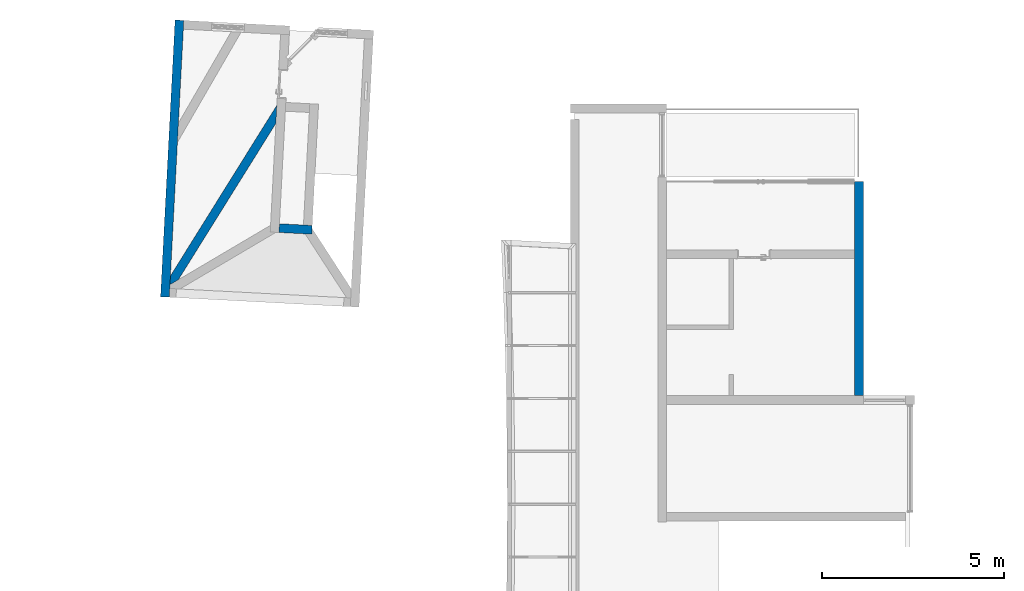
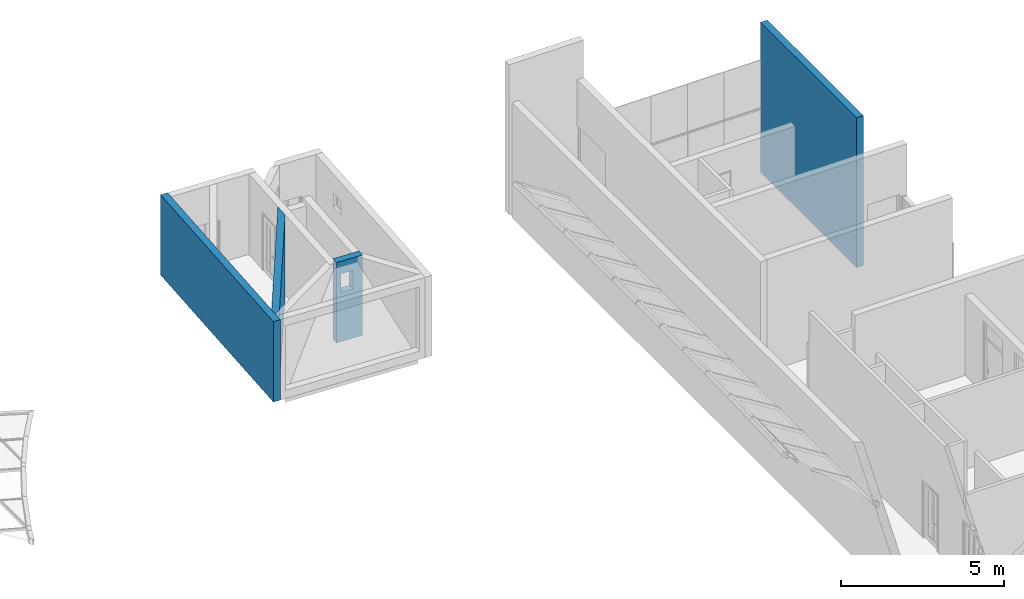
# One storey, part 26 of 33: 4 walls, 1 opening.
"""IFC2X3 building model written with IfcOpenShell, lengths in millimetres."""

from ifc_helpers import new_model, entity, si_unit, converted_unit, derived_unit, direction, frame, frame_2d, origin, place, context, subcontext, project, spatial, polyline, rectangle, outline, extrude, material, layer, layer_set, layer_usage, type_object, element, save


model = new_model("IFC2X3")

# Units and contexts
model_context = context("Model", 3, precision=0.01, world=origin(), true_north=direction((6.12303176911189e-17, 1.0)))
body_context = subcontext(model_context, "Body", "Model", "MODEL_VIEW")
ifc_project = project(units=[si_unit("LENGTHUNIT", "METRE", prefix="MILLI"), si_unit("AREAUNIT", "SQUARE_METRE"), si_unit("VOLUMEUNIT", "CUBIC_METRE"), converted_unit("PLANEANGLEUNIT", "DEGREE", entity("IfcRatioMeasure", 0.0174532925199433), si_unit("PLANEANGLEUNIT", "RADIAN"), dimensions=[0, 0, 0, 0, 0, 0, 0]), si_unit("MASSUNIT", "GRAM", prefix="KILO"), derived_unit("MASSDENSITYUNIT", [(si_unit("MASSUNIT", "GRAM", prefix="KILO"), 1), (si_unit("LENGTHUNIT", "METRE"), -3)]), si_unit("TIMEUNIT", "SECOND"), si_unit("FREQUENCYUNIT", "HERTZ"), si_unit("THERMODYNAMICTEMPERATUREUNIT", "DEGREE_CELSIUS"), derived_unit("THERMALTRANSMITTANCEUNIT", [(si_unit("MASSUNIT", "GRAM", prefix="KILO"), 1), (si_unit("THERMODYNAMICTEMPERATUREUNIT", "KELVIN"), -1), (si_unit("TIMEUNIT", "SECOND"), -3)]), derived_unit("VOLUMETRICFLOWRATEUNIT", [(si_unit("LENGTHUNIT", "METRE"), 3), (si_unit("TIMEUNIT", "SECOND"), -1)]), si_unit("ELECTRICCURRENTUNIT", "AMPERE"), si_unit("ELECTRICVOLTAGEUNIT", "VOLT"), si_unit("POWERUNIT", "WATT"), si_unit("FORCEUNIT", "NEWTON", prefix="KILO"), si_unit("ILLUMINANCEUNIT", "LUX"), si_unit("LUMINOUSFLUXUNIT", "LUMEN"), si_unit("LUMINOUSINTENSITYUNIT", "CANDELA"), derived_unit("USERDEFINED", [(si_unit("MASSUNIT", "GRAM", prefix="KILO"), -1), (si_unit("LENGTHUNIT", "METRE"), -2), (si_unit("TIMEUNIT", "SECOND"), 3), (si_unit("LUMINOUSFLUXUNIT", "LUMEN"), 1)]), derived_unit("LINEARVELOCITYUNIT", [(si_unit("LENGTHUNIT", "METRE"), 1), (si_unit("TIMEUNIT", "SECOND"), -1)]), si_unit("PRESSUREUNIT", "PASCAL"), derived_unit("USERDEFINED", [(si_unit("LENGTHUNIT", "METRE"), -2), (si_unit("MASSUNIT", "GRAM", prefix="KILO"), 1), (si_unit("TIMEUNIT", "SECOND"), -2)])], contexts=[model_context])

# Site, building, storey
site_placement = place(None, origin())
site = spatial("IfcSite", under=ifc_project, at=site_placement, Name="表面", CompositionType="ELEMENT")
building_placement = place(site_placement, origin())
building = spatial("IfcBuilding", under=site, at=building_placement, CompositionType="ELEMENT")
storey_placement = place(building_placement, frame((0.0, 0.0, 6000.0)))
storey = spatial("IfcBuildingStorey", under=building, at=storey_placement, Name="3F", CompositionType="ELEMENT", Elevation=6000.00000000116)

# Wall
ifc_material_1 = material(Name="白色涂料")
ifc_layer_1 = layer(ifc_material_1, 10.0)
ifc_material_2 = material(Name="默认墙")
ifc_layer_2 = layer(ifc_material_2, 220.0)
ifc_layer_3 = layer(ifc_material_1, 10.0)
ifc_layer_set = layer_set([ifc_layer_1, ifc_layer_2, ifc_layer_3], Name="基本墙:粉刷墙240")
ifc_layer_usage_1 = layer_usage(ifc_layer_set, "AXIS2", "NEGATIVE", 120.0)
wall_type = type_object("IfcWallType", Name="基本墙:粉刷墙240", PredefinedType="STANDARD", material=ifc_layer_set)
wall_1_placement = place(storey_placement, frame((-25665.3047645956, 511.665264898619, 0.0), z_axis=(0.0, 0.0, 1.0), x_axis=(0.0523359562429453, 0.998629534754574, 0.0)))
element("IfcWallStandardCase", 1, at=wall_1_placement, inside=storey, type_object=wall_type, material=ifc_layer_usage_1, Name="基本墙:粉刷墙240", ObjectType="基本墙:粉刷墙240", context=body_context, shape_type="SweptSolid", body=[
    extrude(rectangle(XDim=7600.0, YDim=239.999999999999, at=frame_2d((3800.0, 1.17950094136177e-12), x_axis=(-1.0, 0.0))), origin(), (0.0, 0.0, 1.0), 3000.0),
])

# Wall, opening
ifc_layer_usage_2 = layer_usage(ifc_layer_set, "AXIS2", "NEGATIVE", 120.0)
wall_2_placement = place(storey_placement, frame((-22532.1685639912, 2400.27786372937, 0.0), z_axis=(0.0, 0.0, 1.0), x_axis=(0.998629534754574, -0.0523359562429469, 0.0)))
wall_2 = element("IfcWallStandardCase", 2, at=wall_2_placement, inside=storey, type_object=wall_type, material=ifc_layer_usage_2, Name="基本墙:粉刷墙240", ObjectType="基本墙:粉刷墙240", context=body_context, shape_type="SweptSolid", body=[
    extrude(rectangle(XDim=899.999999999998, YDim=240.0, at=frame_2d((449.999999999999, -1.49213974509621e-13), x_axis=(-1.0, 0.0))), origin(), (0.0, 0.0, 1.0), 3000.0),
])
opening_placement = place(wall_2_placement, origin())
element("IfcOpeningElement", 3, at=opening_placement, cuts=wall_2, Name="基本墙:粉刷墙240", ObjectType="Opening", context=body_context, shape_type="SweptSolid", body=[
    extrude(rectangle(XDim=700.0, YDim=400.000000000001, at=frame_2d((-5.40012479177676e-13, 0.0), x_axis=(1.0, 0.0))), frame((359.630673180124, 120.0, 2180.90536710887), z_axis=(0.0, -1.0, 0.0), x_axis=(0.0, 0.0, -1.0)), (0.0, 0.0, 1.0), 240.0),
])

# Walls
ifc_layer_usage_3 = layer_usage(ifc_layer_set, "AXIS2", "NEGATIVE", 120.0)
wall_3_placement = place(storey_placement, frame((-22494.1213235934, 5705.70733124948, 0.0), z_axis=(0.0, 0.0, 1.0), x_axis=(-0.52922001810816, -0.848484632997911, 0.0)))
element("IfcWallStandardCase", 4, at=wall_3_placement, inside=storey, type_object=wall_type, material=ifc_layer_usage_3, Name="基本墙:粉刷墙240", ObjectType="基本墙:粉刷墙240", context=body_context, shape_type="SweptSolid", body=[
    extrude(outline(polyline([(5515.52056720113, -120.0), (5726.58779294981, -3.23086940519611), (5489.79982299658, 120.0), (433.81443298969, 120.0), (0.0, -120.0), (5515.52056720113, -120.0)])), origin(), (0.0, 0.0, 1.0), 3000.0),
])
ifc_layer_usage_4 = layer_usage(ifc_layer_set, "AXIS2", "NEGATIVE", 120.0)
wall_4_placement = place(storey_placement, frame((-6630.2499126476, 3683.131573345, 0.0), z_axis=(0.0, 0.0, 1.0), x_axis=(0.0, -1.0, 0.0)))
element("IfcWallStandardCase", 5, at=wall_4_placement, inside=storey, type_object=wall_type, material=ifc_layer_usage_4, Name="基本墙:粉刷墙240", ObjectType="基本墙:粉刷墙240", context=body_context, shape_type="SweptSolid", body=[
    extrude(rectangle(XDim=5879.99999999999, YDim=240.0, at=frame_2d((2940.0, -9.9475983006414e-14), x_axis=(-1.0, 0.0))), origin(), (0.0, 0.0, 1.0), 5600.0),
])

save(model, "model.ifc")
